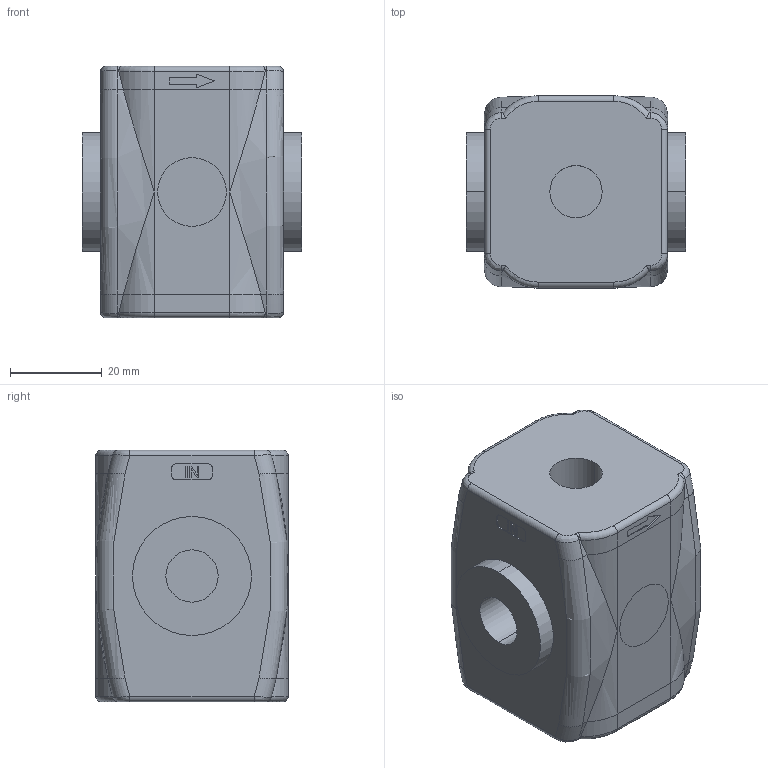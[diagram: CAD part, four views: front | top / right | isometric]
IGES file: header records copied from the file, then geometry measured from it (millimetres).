
Global section: file name: No Iges File Name specified; native system: Autodesk Inventor 2010; preprocessor: AutoDesk Inventor Iges Exporter R2010; author: valotma1; date: 20100823.141811; units: millimetre
Bounding box: 48 x 42 x 55 mm (x, y, z)
Volume: 89606.2 mm3; surface area: 13579.7 mm2
Topology: 1 solids, 1 shells, 182 faces, 436 edges, 274 vertices
Faces by surface type: bspline 64, plane 60, cylinder 32, torus 20, revolution 6
